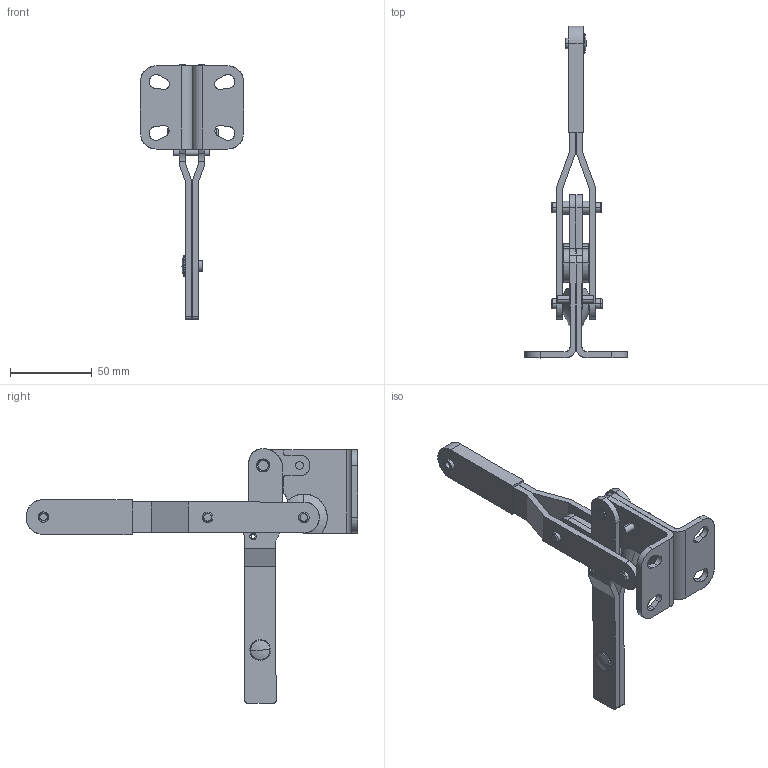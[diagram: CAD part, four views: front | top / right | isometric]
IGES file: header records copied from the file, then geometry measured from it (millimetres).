
Start section: SolidWorks IGES file using analytic representation for surfaces
Global section: file name: C:\lapeer-mfg\v400\IGES\VC-400.IGS; native system: SolidWorks 2005 by SolidWorks Corporation; preprocessor: SolidWorks 2005 by SolidWorks Corporation; author: rtaylor; date: 051027.194348; units: inch
Bounding box: 62.97 x 202.72 x 155.63 mm (x, y, z)
Surface area: 64026.4 mm2 (no closed solid volume)
Topology: 0 solids, 0 shells, 331 faces, 5494 edges, 5486 vertices
Faces by surface type: revolution 174, bspline 157
